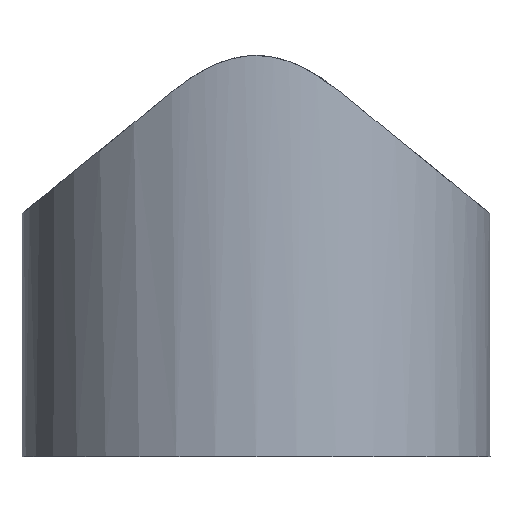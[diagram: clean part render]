
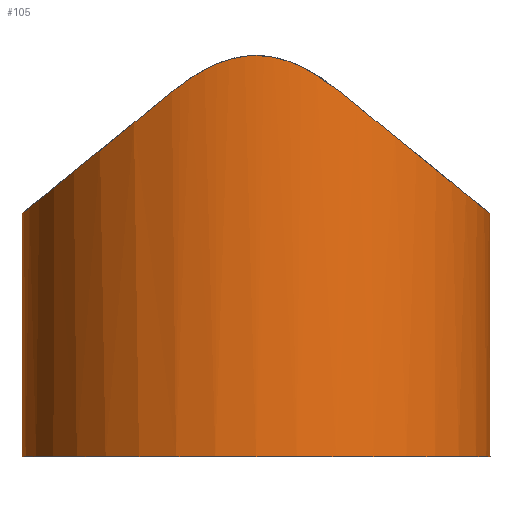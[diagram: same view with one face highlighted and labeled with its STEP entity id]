
A CAD part, left-side view. The second image highlights one B-rep face of the part: STEP entity #105.
In plain terms, the highlighted cylindrical face has radius 4.445 mm (diameter 8.89 mm), a full revolution.
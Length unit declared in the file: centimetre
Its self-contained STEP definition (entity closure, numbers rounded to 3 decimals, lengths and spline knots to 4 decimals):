
#34=CIRCLE('',#112,0.4445);
#35=CYLINDRICAL_SURFACE('',#111,0.4445);
#36=B_SPLINE_CURVE_WITH_KNOTS('',3,(#160,#161,#162,#163,#164,#165,#166,#167),
 .UNSPECIFIED.,.F.,.U.,(4,2,2,4),(0.,0.0424,0.0988,
0.1671),.UNSPECIFIED.);
#37=B_SPLINE_CURVE_WITH_KNOTS('',3,(#169,#170,#171,#172,#173,#174),.UNSPECIFIED.,
 .F.,.U.,(4,2,4),(0.,0.0392,0.106),.UNSPECIFIED.);
#38=B_SPLINE_CURVE_WITH_KNOTS('',3,(#199,#200,#201,#202,#203,#204),.UNSPECIFIED.,
 .F.,.U.,(4,2,4),(0.,0.0392,0.106),.UNSPECIFIED.);
#39=B_SPLINE_CURVE_WITH_KNOTS('',3,(#205,#206,#207,#208,#209,#210,#211,#212),
 .UNSPECIFIED.,.F.,.U.,(4,2,2,4),(0.,0.0424,0.0988,
0.1671),.UNSPECIFIED.);
#48=VERTEX_POINT('',#130);
#49=VERTEX_POINT('',#131);
#50=VERTEX_POINT('',#135);
#51=VERTEX_POINT('',#136);
#52=VERTEX_POINT('',#168);
#53=VERTEX_POINT('',#175);
#54=VERTEX_POINT('',#215);
#55=ELLIPSE('',#108,0.5724,0.4445);
#56=ELLIPSE('',#110,0.5724,0.4445);
#57=EDGE_CURVE('',#48,#49,#55,.T.);
#59=EDGE_CURVE('',#50,#51,#56,.T.);
#61=EDGE_CURVE('',#51,#52,#36,.T.);
#62=EDGE_CURVE('',#53,#50,#37,.T.);
#64=EDGE_CURVE('',#52,#48,#38,.T.);
#65=EDGE_CURVE('',#49,#53,#39,.T.);
#66=EDGE_CURVE('',#54,#54,#34,.T.);
#79=ORIENTED_EDGE('',*,*,#59,.T.);
#80=ORIENTED_EDGE('',*,*,#61,.T.);
#81=ORIENTED_EDGE('',*,*,#64,.T.);
#82=ORIENTED_EDGE('',*,*,#57,.T.);
#83=ORIENTED_EDGE('',*,*,#65,.T.);
#84=ORIENTED_EDGE('',*,*,#62,.T.);
#85=ORIENTED_EDGE('',*,*,#66,.T.);
#91=EDGE_LOOP('',(#79,#80,#81,#82,#83,#84));
#92=EDGE_LOOP('',(#85));
#98=FACE_BOUND('',#91,.T.);
#99=FACE_BOUND('',#92,.T.);
#105=ADVANCED_FACE('',(#98,#99),#35,.T.);
#108=AXIS2_PLACEMENT_3D('',#129,#115,#116);
#110=AXIS2_PLACEMENT_3D('',#134,#119,#120);
#111=AXIS2_PLACEMENT_3D('',#213,#123,#124);
#112=AXIS2_PLACEMENT_3D('',#214,#125,#126);
#115=DIRECTION('',(0.,0.63,-0.777));
#116=DIRECTION('',(0.,0.445,0.361));
#119=DIRECTION('',(0.,-0.63,-0.777));
#120=DIRECTION('',(0.,0.445,-0.361));
#123=DIRECTION('',(0.,0.,1.));
#124=DIRECTION('',(0.445,0.,0.));
#125=DIRECTION('',(0.,0.,1.));
#126=DIRECTION('',(0.445,0.,0.));
#129=CARTESIAN_POINT('',(0.,0.,0.8222));
#130=CARTESIAN_POINT('',(0.4148,-0.1598,0.6926));
#131=CARTESIAN_POINT('',(-0.4148,-0.1598,0.6926));
#134=CARTESIAN_POINT('',(0.,0.,0.8222));
#135=CARTESIAN_POINT('',(-0.4148,0.1598,0.6926));
#136=CARTESIAN_POINT('',(0.4148,0.1598,0.6926));
#160=CARTESIAN_POINT('',(0.4148,0.1598,0.6926));
#161=CARTESIAN_POINT('',(0.4188,0.1493,0.7011));
#162=CARTESIAN_POINT('',(0.4226,0.1383,0.7093));
#163=CARTESIAN_POINT('',(0.4305,0.112,0.7271));
#164=CARTESIAN_POINT('',(0.4357,0.0914,0.7397));
#165=CARTESIAN_POINT('',(0.4439,0.038,0.7601));
#166=CARTESIAN_POINT('',(0.4445,0.015,0.762));
#167=CARTESIAN_POINT('',(0.4445,0.,0.762));
#168=CARTESIAN_POINT('',(0.4445,0.,0.762));
#169=CARTESIAN_POINT('',(-0.4445,0.,0.762));
#170=CARTESIAN_POINT('',(-0.4445,0.0131,0.762));
#171=CARTESIAN_POINT('',(-0.444,0.0329,0.7605));
#172=CARTESIAN_POINT('',(-0.4352,0.1,0.7383));
#173=CARTESIAN_POINT('',(-0.424,0.136,0.7118));
#174=CARTESIAN_POINT('',(-0.4148,0.1598,0.6926));
#175=CARTESIAN_POINT('',(-0.4445,0.,0.762));
#199=CARTESIAN_POINT('',(0.4445,0.,0.762));
#200=CARTESIAN_POINT('',(0.4445,-0.0131,0.762));
#201=CARTESIAN_POINT('',(0.444,-0.0329,0.7605));
#202=CARTESIAN_POINT('',(0.4352,-0.1,0.7383));
#203=CARTESIAN_POINT('',(0.424,-0.136,0.7118));
#204=CARTESIAN_POINT('',(0.4148,-0.1598,0.6926));
#205=CARTESIAN_POINT('',(-0.4148,-0.1598,0.6926));
#206=CARTESIAN_POINT('',(-0.4188,-0.1493,0.7011));
#207=CARTESIAN_POINT('',(-0.4226,-0.1383,0.7093));
#208=CARTESIAN_POINT('',(-0.4305,-0.112,0.7271));
#209=CARTESIAN_POINT('',(-0.4357,-0.0914,0.7397));
#210=CARTESIAN_POINT('',(-0.4439,-0.038,0.7601));
#211=CARTESIAN_POINT('',(-0.4445,-0.015,0.762));
#212=CARTESIAN_POINT('',(-0.4445,0.,0.762));
#213=CARTESIAN_POINT('',(0.,0.,0.));
#214=CARTESIAN_POINT('',(0.,0.,0.));
#215=CARTESIAN_POINT('',(0.4445,0.,0.));
